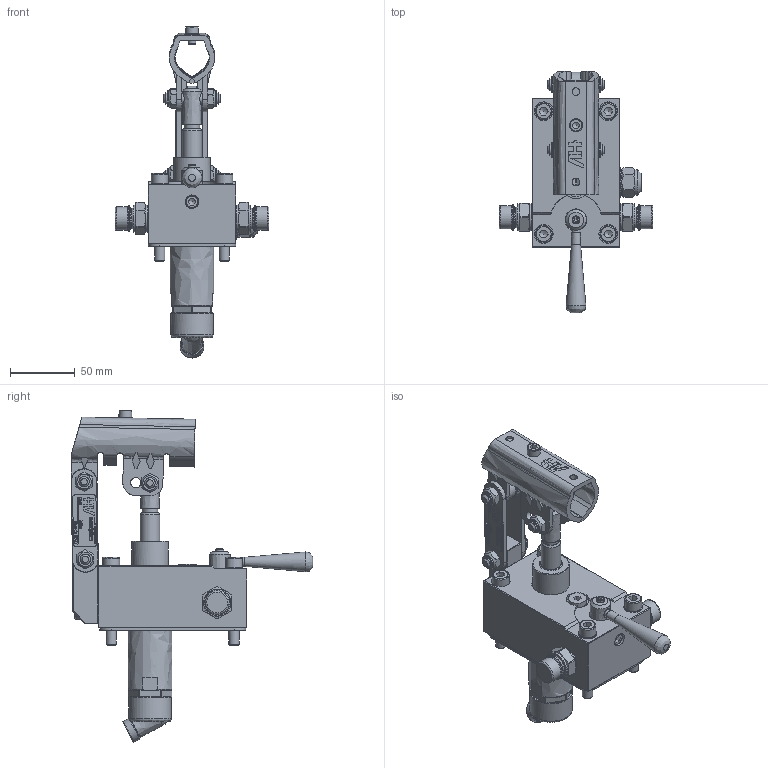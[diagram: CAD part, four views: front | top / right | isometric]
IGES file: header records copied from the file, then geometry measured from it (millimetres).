
Global section: file name: No Iges File Name specified; native system: Autodesk Inventor 2013; preprocessor: AutoDesk Inventor Iges Exporter R2013; author: christian.scardovi; date: 20240229.161856; units: millimetre
Bounding box: 119 x 186.99 x 256.8 mm (x, y, z)
Volume: 547228.8 mm3; surface area: 117819.6 mm2
Topology: 3 solids, 3 shells, 1399 faces, 3512 edges, 2254 vertices
Faces by surface type: bspline 1399
